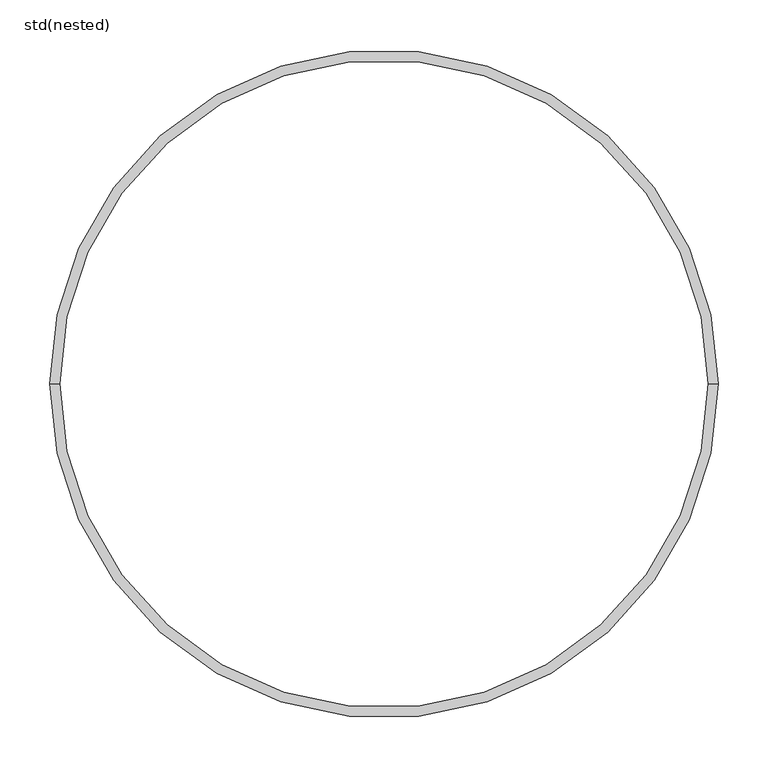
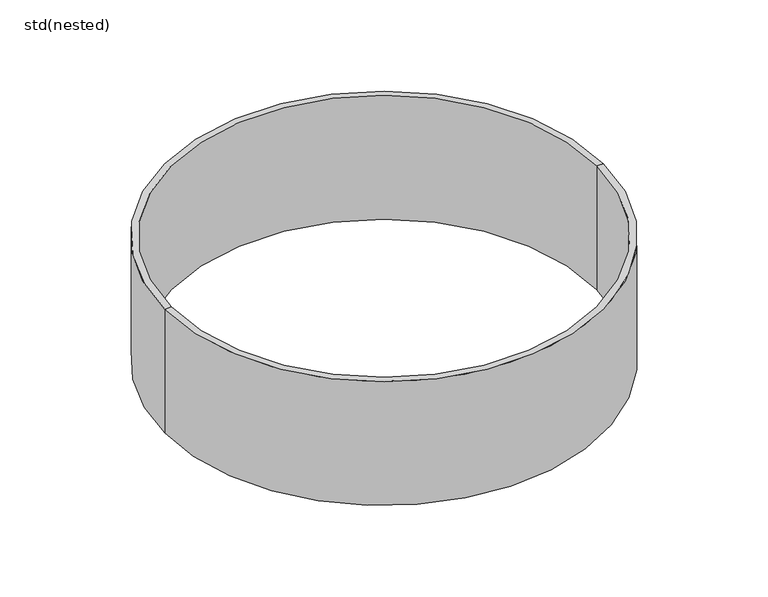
"""IFC4 building model written with IfcOpenShell, lengths in millimetres: unitary equipment geometry, ZZZ_do not use_ME_ST_WPB_adapter ring_ACO : std(nested)."""

import ifcopenshell
import ifcopenshell.guid

model = None  # the IFC model being written
_history = None  # IfcOwnerHistory: only IFC2X3 demands one
_inside = {}  # id of a spatial element -> (the spatial element, [elements in it])
_under = {}  # id of a project, library or spatial element -> (it, [spatial elements below it])
_declared = {}  # id of a project -> (the project, [libraries it declares])
_typed = {}  # id of a type object -> (the type object, [elements of that type])
_made_of = {}  # id of a material, layer set ... -> (it, [elements and type objects made of it])


def new_model(schema):
    """Start an empty IFC model of exactly this schema.

    Asked for "IFC4X3", IfcOpenShell would pick the latest addendum, in which some entities
    have other attributes; the version numbers below select the first issue.
    IFC2X3 requires an IfcOwnerHistory on every rooted entity: one is made here for all.
    """
    global model, _history
    if schema == "IFC4X3":
        model = ifcopenshell.file(schema_version=(4, 3, 0, 0))
    else:
        model = ifcopenshell.file(schema=schema)
    _inside.clear()
    _under.clear()
    _declared.clear()
    _typed.clear()
    _made_of.clear()
    _history = None
    if model.schema == "IFC2X3":
        org = make("IfcOrganization", Name="unknown")
        user = make(
            "IfcPersonAndOrganization",
            ThePerson=make("IfcPerson", FamilyName="unknown"),
            TheOrganization=org,
        )
        app = make(
            "IfcApplication",
            ApplicationDeveloper=org,
            Version="unknown",
            ApplicationFullName="unknown",
            ApplicationIdentifier="unknown",
        )
        _history = make(
            "IfcOwnerHistory",
            OwningUser=user,
            OwningApplication=app,
            ChangeAction="ADDED",
            CreationDate=0,
        )
    return model


def make(cls, **values):
    """One entity of the class cls with the attributes given. An attribute that is None is left unset."""
    return model.create_entity(
        cls, **{name: value for name, value in values.items() if value is not None}
    )


def rooted(cls, **values):
    """An entity with a GlobalId (a new one), such as an element, a storey or a relation."""
    return make(cls, GlobalId=ifcopenshell.guid.new(), OwnerHistory=_history, **values)


def si_unit(unit_type, name, prefix=None):
    """IfcSIUnit, for example si_unit("LENGTHUNIT", "METRE", prefix="MILLI")."""
    return make("IfcSIUnit", UnitType=unit_type, Prefix=prefix, Name=name)


def assignment(units):
    """IfcUnitAssignment: the units of a project."""
    return None if units is None else make("IfcUnitAssignment", Units=units)


def point(xyz):
    """IfcCartesianPoint."""
    return None if xyz is None else make("IfcCartesianPoint", Coordinates=xyz)


def direction(xyz):
    """IfcDirection."""
    return None if xyz is None else make("IfcDirection", DirectionRatios=xyz)


def frame(location, z_axis=None, x_axis=None):
    """IfcAxis2Placement3D, a coordinate frame: its origin and axes. An axis left out is left unset."""
    return make(
        "IfcAxis2Placement3D",
        Location=point(location),
        Axis=direction(z_axis),
        RefDirection=direction(x_axis),
    )


def origin():
    """The frame at (0, 0, 0) with its axes left unset."""
    return frame((0.0, 0.0, 0.0))


def origin_with_axes():
    """The frame at (0, 0, 0) with the z axis (0, 0, 1) and the x axis (1, 0, 0) written out."""
    return frame((0.0, 0.0, 0.0), z_axis=(0.0, 0.0, 1.0), x_axis=(1.0, 0.0, 0.0))


def place(relative_to, where):
    """IfcLocalPlacement: puts the frame where relative to a parent placement (None: the world)."""
    return make(
        "IfcLocalPlacement", PlacementRelTo=relative_to, RelativePlacement=where
    )


def context(
    kind, dimensions, precision=None, world=None, true_north=None, identifier=None
):
    """IfcGeometricRepresentationContext, for example the 3D "Model" context."""
    return make(
        "IfcGeometricRepresentationContext",
        ContextIdentifier=identifier,
        ContextType=kind,
        CoordinateSpaceDimension=dimensions,
        Precision=precision,
        WorldCoordinateSystem=world,
        TrueNorth=true_north,
    )


def project(units=None, contexts=None):
    """IfcProject with its units and contexts."""
    return rooted(
        "IfcProject",
        Name="project",
        RepresentationContexts=contexts,
        UnitsInContext=assignment(units),
    )


def spatial(cls, under=None, at=None, **own):
    """A site, building, storey or space (cls), placed at a placement, below another one or the project."""
    s = rooted(cls, ObjectPlacement=at, **own)
    if under is not None:
        _under.setdefault(under.id(), (under, []))[1].append(s)
    return s


def polyline(points):
    """IfcPolyline through the points."""
    return make("IfcPolyline", Points=[point(p) for p in points])


def circle_curve(where, radius):
    """IfcCircle in the frame where."""
    return make("IfcCircle", Position=where, Radius=radius)


def shape(context_of_items, identifier, shape_type, items):
    """IfcShapeRepresentation: the items that make up one representation, for example the "Body"."""
    return make(
        "IfcShapeRepresentation",
        ContextOfItems=context_of_items,
        RepresentationIdentifier=identifier,
        RepresentationType=shape_type,
        Items=items,
    )


def source(mapping_origin, context_of_items, identifier, shape_type, items):
    """IfcRepresentationMap: a shape defined once, which mapped items show again and again."""
    return make(
        "IfcRepresentationMap",
        MappingOrigin=mapping_origin,
        MappedRepresentation=shape(context_of_items, identifier, shape_type, items),
    )


def transform(
    local_origin,
    x_axis=None,
    y_axis=None,
    z_axis=None,
    scale=None,
    scale2=None,
    scale3=None,
    uniform=True,
):
    """IfcCartesianTransformationOperator3D, or its non-uniform kind. x_axis, y_axis, z_axis: its Axis1, 2, 3."""
    if uniform:
        return make(
            "IfcCartesianTransformationOperator3D",
            Axis1=direction(x_axis),
            Axis2=direction(y_axis),
            LocalOrigin=point(local_origin),
            Scale=scale,
            Axis3=direction(z_axis),
        )
    return make(
        "IfcCartesianTransformationOperator3DnonUniform",
        Axis1=direction(x_axis),
        Axis2=direction(y_axis),
        LocalOrigin=point(local_origin),
        Scale=scale,
        Axis3=direction(z_axis),
        Scale2=scale2,
        Scale3=scale3,
    )


def mapped(mapping_source, mapping_target):
    """IfcMappedItem: shows the shape of a source again, moved by a transform."""
    return make(
        "IfcMappedItem", MappingSource=mapping_source, MappingTarget=mapping_target
    )


def made_of(thing, what):
    """Note that an element or type object is made of a material, layer set ...; save() writes the relation."""
    if what is not None:
        _made_of.setdefault(what.id(), (what, []))[1].append(thing)
    return thing


def element(
    cls,
    number,
    at=None,
    inside=None,
    cuts=None,
    type_object=None,
    material=None,
    context=None,
    identifier="Body",
    shape_type=None,
    held_by="IfcProductDefinitionShape",
    body=None,
    shapes=None,
    **own,
):
    """One element of the class cls, such as IfcWall. Its Tag is "e" and its number.

    at: its placement. inside: the storey or other place that contains it. cuts: it is an
    opening in that element (IfcRelVoidsElement). A single representation is given by context,
    identifier, shape_type and body (its items); several are given by shapes. held_by: the class
    of the entity that holds the representations. save() writes the other relations.
    """
    e = rooted(cls, Tag="e%d" % number, ObjectPlacement=at, **own)
    if body is not None:
        shapes = [shape(context, identifier, shape_type, body)]
    if shapes is not None:
        e.Representation = make(held_by, Representations=shapes)
    if inside is not None:
        _inside.setdefault(inside.id(), (inside, []))[1].append(e)
    if cuts is not None:
        rooted(
            "IfcRelVoidsElement", RelatingBuildingElement=cuts, RelatedOpeningElement=e
        )
    if type_object is not None:
        _typed.setdefault(type_object.id(), (type_object, []))[1].append(e)
    return made_of(e, material)


def aggregate(whole, parts):
    """IfcRelAggregates: a whole, such as a stair, and the parts it consists of."""
    return rooted("IfcRelAggregates", RelatingObject=whole, RelatedObjects=parts)


def save(model, path):
    """Write the relations noted so far, then the file.

    IfcRelAggregates (storeys below a building ...), IfcRelContainedInSpatialStructure (elements
    in a storey), IfcRelDefinesByType, IfcRelAssociatesMaterial and IfcRelDeclares: one each for
    every whole, place, type object, material and project.
    """
    for whole, parts in _under.values():
        aggregate(whole, parts)
    for where, things in _inside.values():
        rooted(
            "IfcRelContainedInSpatialStructure",
            RelatedElements=things,
            RelatingStructure=where,
        )
    for kind, things in _typed.values():
        rooted("IfcRelDefinesByType", RelatedObjects=things, RelatingType=kind)
    for what, things in _made_of.values():
        rooted("IfcRelAssociatesMaterial", RelatedObjects=things, RelatingMaterial=what)
    for by, libraries in _declared.values():
        rooted("IfcRelDeclares", RelatingContext=by, RelatedDefinitions=libraries)
    model.write(path)


def plane_surface(at):
    """IfcPlane: the flat surface through the origin of the frame at, square to its z axis."""
    return make("IfcPlane", Position=at)


def cylinder_surface(at, radius):
    """IfcCylindricalSurface: all points at the distance radius from the z axis of the frame at."""
    return make("IfcCylindricalSurface", Position=at, Radius=radius)


def revolved_surface(curve, axis_point, axis_direction):
    """IfcSurfaceOfRevolution: the curve turned about the line through axis_point along axis_direction."""
    return make(
        "IfcSurfaceOfRevolution",
        SweptCurve=make("IfcArbitraryOpenProfileDef", ProfileType="CURVE", Curve=curve),
        AxisPosition=make("IfcAxis1Placement", Location=point(axis_point), Axis=direction(axis_direction)),
    )


def advanced_brep(points, edges, surfaces, faces):
    """IfcAdvancedBrep: a solid bounded by faces that lie on surfaces and meet in shared edges.

    An edge is (start, end): straight between two places in points (the first is 0);
    or (start, end, curve); or (start, end, curve, False) where it runs against its curve.
    A face is (place in surfaces, loops), or (place, loops, False) where it looks against
    its surface's normal. A loop lists edges by number (the first is 1), with a minus sign
    where the edge is run from its end to its start. The first loop is the outer one.
    """
    corners = [point(p) for p in points]
    vertices = [make("IfcVertexPoint", VertexGeometry=c) for c in corners]
    made = []
    for start, end, *more in edges:
        made.append(
            make(
                "IfcEdgeCurve",
                EdgeStart=vertices[start],
                EdgeEnd=vertices[end],
                EdgeGeometry=more[0] if more else make("IfcPolyline", Points=[corners[start], corners[end]]),
                SameSense=more[1] if len(more) > 1 else True,
            )
        )
    hull = []
    for where, loops, *sense in faces:
        bounds = []
        for j, loop in enumerate(loops):
            ring = [make("IfcOrientedEdge", EdgeElement=made[abs(k) - 1], Orientation=k > 0) for k in loop]
            bounds.append(
                make(
                    "IfcFaceOuterBound" if j == 0 else "IfcFaceBound",
                    Bound=make("IfcEdgeLoop", EdgeList=ring),
                    Orientation=True,
                )
            )
        hull.append(make("IfcAdvancedFace", Bounds=bounds, FaceSurface=surfaces[where], SameSense=sense[0] if sense else True))
    return make("IfcAdvancedBrep", Outer=make("IfcClosedShell", CfsFaces=hull))


def std_nested_2d83406e(model_context):
    return source(origin(), model_context, "Body", "AdvancedBrep", [
        advanced_brep(
        [(-325.1, 0.0, 0.0), (325.1, 0.0, 0.0), (335.1, 0.0, 0.0), (-335.1, 0.0, 0.0), (-325.1, 0.0, -200.0), (325.1, 0.0, -200.0), (-335.1, 0.0, -200.0), (335.1, 0.0, -200.0)],
        [
            (0, 1, circle_curve(frame((0.0, 0.0, 0.0), z_axis=(0.0, 0.0, -1.0), x_axis=(1.0, 0.0, 0.0)), 325.1)),
            (1, 2),
            (2, 3, circle_curve(origin_with_axes(), 335.1)),
            (3, 0),
            (1, 0, circle_curve(frame((0.0, 0.0, 0.0), z_axis=(0.0, 0.0, -1.0), x_axis=(1.0, 0.0, 0.0)), 325.1)),
            (3, 2, circle_curve(origin_with_axes(), 335.1)),
            (4, 5, circle_curve(frame((0.0, 0.0, -200.0), z_axis=(0.0, 0.0, -1.0), x_axis=(1.0, 0.0, 0.0)), 325.1)),
            (5, 1),
            (0, 4),
            (5, 4, circle_curve(frame((0.0, 0.0, -200.0), z_axis=(0.0, 0.0, -1.0), x_axis=(1.0, 0.0, 0.0)), 325.1)),
            (6, 7, circle_curve(frame((0.0, 0.0, -200.0), z_axis=(0.0, 0.0, -1.0), x_axis=(1.0, 0.0, 0.0)), 335.1)),
            (7, 5),
            (4, 6),
            (7, 6, circle_curve(frame((0.0, 0.0, -200.0), z_axis=(0.0, 0.0, -1.0), x_axis=(1.0, 0.0, 0.0)), 335.1)),
            (2, 7),
            (6, 3),
        ],
        [
            plane_surface(origin_with_axes()),
            revolved_surface(polyline([(325.1, 0.0, 0.0), (325.1, 0.0, -200.0)]), (0.0, 0.0, 62.1043459), (0.0, 0.0, 1.0)),
            plane_surface(frame((0.0, 0.0, -200.0), z_axis=(0.0, 0.0, -1.0), x_axis=(1.0, 0.0, 0.0))),
            cylinder_surface(frame((0.0, 0.0, 62.1043459), z_axis=(0.0, 0.0, 1.0), x_axis=(1.0, 0.0, 0.0)), 335.1),
        ],
        [
            (0, [[1, 2, 3, 4]]),
            (0, [[5, -4, 6, -2]]),
            (1, [[7, 8, -1, 9]]),
            (1, [[10, -9, -5, -8]]),
            (2, [[11, 12, -7, 13]]),
            (2, [[14, -13, -10, -12]]),
            (3, [[-3, 15, -11, 16]]),
            (3, [[-6, -16, -14, -15]]),
        ],
    ),
    ])


if __name__ == "__main__":
    model = new_model("IFC4")
    model_context = context("Model", 3, world=origin())
    ifc_project = project(units=[si_unit("LENGTHUNIT", "METRE", prefix="MILLI")], contexts=[model_context])
    site = spatial("IfcSite", under=ifc_project)
    building = spatial("IfcBuilding", under=site)
    placement = place(None, origin())
    std_nested_shape = std_nested_2d83406e(model_context)
    element("IfcUnitaryEquipment", 1, ObjectType="ZZZ_do not use_ME_ST_WPB_adapter ring_ACO : std(nested)", at=placement, inside=building, context=model_context, shape_type="MappedRepresentation", body=[
        mapped(std_nested_shape, transform((0.0, 0.0, 0.0), x_axis=(1.0, 0.0, 0.0), y_axis=(0.0, 1.0, 0.0), z_axis=(0.0, 0.0, 1.0))),
    ])
    save(model, "model.ifc")
